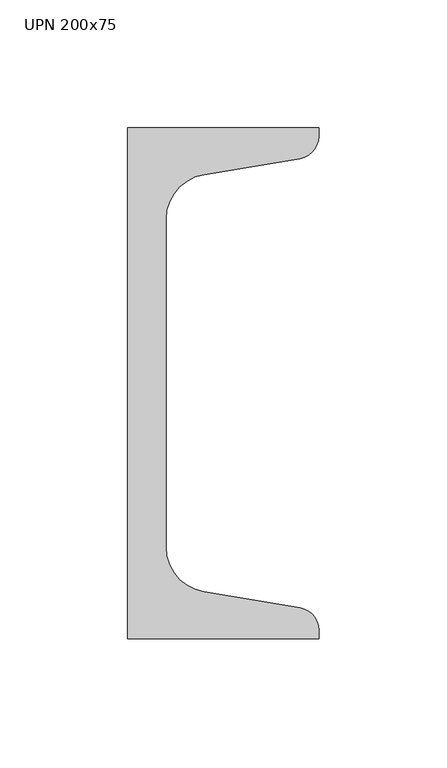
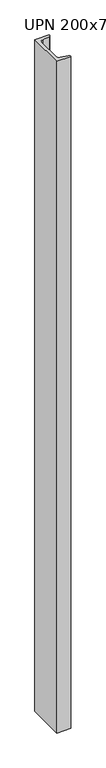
"""IFC4 building model written with IfcOpenShell, lengths in millimetres: column geometry, M_MC Shapes-Column : UPN 200x75."""

from ifc_helpers import new_model, si_unit, point, frame, frame_2d, origin, place, context, project, spatial, polyline, circle_curve, trimmed, segment, composite_curve, outline, extrude, source, transform, mapped, element, save


def upn_200x75_6854b640(model_context):
    return source(origin(), model_context, "Body", "SweptSolid", [
        extrude(outline(composite_curve([segment(polyline([(-26.4, -100.0), (-26.4, 100.0), (48.6, 100.0), (48.6, 96.7227759)]), True, "CONTINUOUS"), segment(trimmed(circle_curve(frame_2d((39.7, 96.7227759)), 8.9), [point((48.6, 96.7227759))], [point((41.1631538, 87.9438705))], False, "CARTESIAN"), True, "CONTINUOUS"), segment(polyline([(41.1631538, 87.9438705), (3.4736923, 81.662281)]), True, "CONTINUOUS"), segment(trimmed(circle_curve(frame_2d((6.4, 64.1044701)), 17.8), [point((3.4736923, 81.662281))], [point((-11.4, 64.1044701))], True, "CARTESIAN"), True, "CONTINUOUS"), segment(polyline([(-11.4, 64.1044701), (-11.4, -64.1044701)]), True, "CONTINUOUS"), segment(trimmed(circle_curve(frame_2d((6.4, -64.1044701)), 17.8), [point((-11.4, -64.1044701))], [point((3.4736923, -81.662281))], True, "CARTESIAN"), True, "CONTINUOUS"), segment(polyline([(3.4736923, -81.662281), (41.1631538, -87.9438705)]), True, "CONTINUOUS"), segment(trimmed(circle_curve(frame_2d((39.7, -96.7227759)), 8.9), [point((41.1631538, -87.9438705))], [point((48.6, -96.7227759))], False, "CARTESIAN"), True, "CONTINUOUS"), segment(polyline([(48.6, -96.7227759), (48.6, -100.0), (-26.4, -100.0)]), True, "CONTINUOUS")], self_intersect=False)), frame((0.0, 0.0, 22410.0), z_axis=(0.0, 0.0, 1.0), x_axis=(1.0, 0.0, 0.0)), (0.0, 0.0, 1.0), 3750.0),
    ])


if __name__ == "__main__":
    model = new_model("IFC4")
    model_context = context("Model", 3, world=origin())
    ifc_project = project(units=[si_unit("LENGTHUNIT", "METRE", prefix="MILLI")], contexts=[model_context])
    site = spatial("IfcSite", under=ifc_project)
    building = spatial("IfcBuilding", under=site)
    placement = place(None, origin())
    upn_200x75_shape = upn_200x75_6854b640(model_context)
    element("IfcColumn", 1, ObjectType="M_MC Shapes-Column : UPN 200x75", at=placement, inside=building, context=model_context, shape_type="MappedRepresentation", body=[
        mapped(upn_200x75_shape, transform((0.0, 0.0, 0.0), x_axis=(1.0, 0.0, 0.0), y_axis=(0.0, 1.0, 0.0), z_axis=(0.0, 0.0, 1.0))),
    ])
    save(model, "model.ifc")
